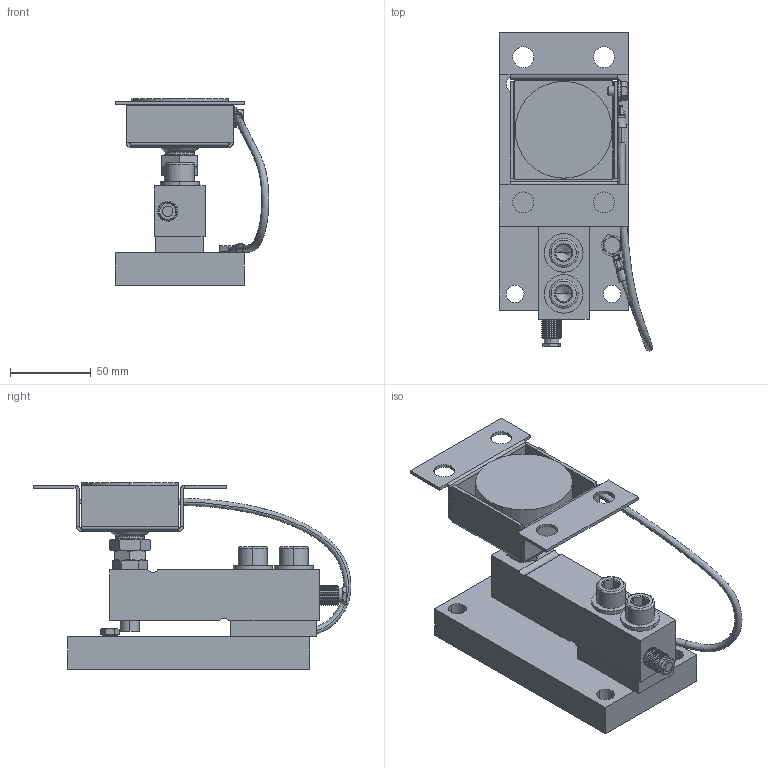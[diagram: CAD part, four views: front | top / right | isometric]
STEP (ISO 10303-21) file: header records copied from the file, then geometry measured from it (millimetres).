
FILE_DESCRIPTION((''),'1');
FILE_NAME('LMLBA_standard.step','2020-05-25T10:36:30',(''),(''),'','','');
FILE_SCHEMA(('AUTOMOTIVE_DESIGN { 1 0 10303 214 1 1 1 1 }'));
Products named in the file (22): LMLBA standard; LMLBA screw 01; LMLBA screw 02; LMLBA part 03; LMLBA part 04; LMLBA part 06; LMLBA part 07; LMLBA cable 01; LMLBA part 08; LMLBA part 09; LMLBA nut 01; LMLBA part 10; LMLBA base 01; LMLBA screw 03; LMLBA nut 03; LMLBA screw 04; LMLBA load cell 01; LMLBA part 11; LMLBA screw 05; LMLBA part 12
Assembly tree (26 placements, depth 4):
  LMLBA standard
    LMLBA standard
    LMLBA screw 01  x2
    LMLBA screw 02
    LMLBA part 07
      LMLBA part 03
        LMLBA part 04
        LMLBA part 06
      LMLBA cable 01
      LMLBA part 03
        LMLBA part 04
        LMLBA part 06
    LMLBA part 08
    LMLBA part 09
      LMLBA nut 01
      LMLBA part 10
      LMLBA base 01
    LMLBA screw 03  x2
    LMLBA nut 03
    LMLBA screw 04  x2
    LMLBA load cell 01
    LMLBA part 11
    LMLBA screw 05
    LMLBA part 12
Bounding box: 95.32 x 197.04 x 115.5 mm (x, y, z)
Volume: 486556.2 mm3; surface area: 136581.4 mm2
Topology: 22 solids, 28 shells, 829 faces, 2029 edges, 1253 vertices
Faces by surface type: plane 254, cylinder 248, cone 186, bspline 74, torus 66, revolution 1
Entity records: 26750 total; most frequent: CARTESIAN_POINT 11641, DIRECTION 3163, ORIENTED_EDGE 2954, EDGE_CURVE 1489, AXIS2_PLACEMENT_3D 1293, VERTEX_POINT 917, EDGE_LOOP 694, CIRCLE 676
